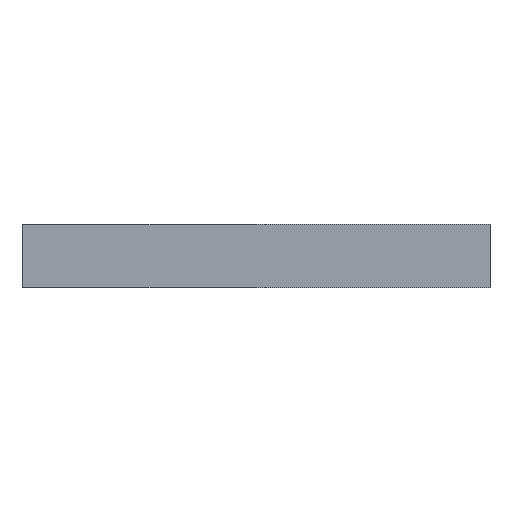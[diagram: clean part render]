
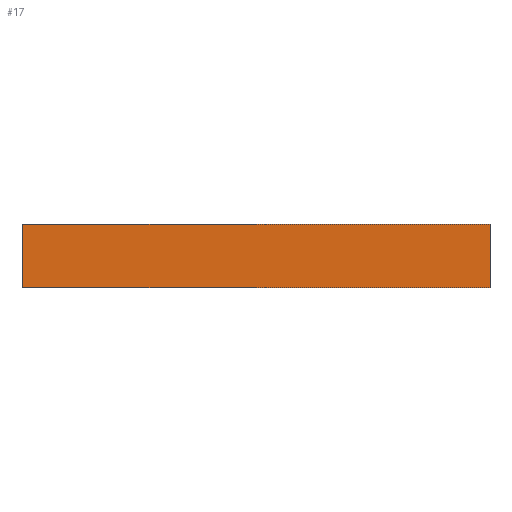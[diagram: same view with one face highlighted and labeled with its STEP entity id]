
A CAD part, front view. The second image highlights one B-rep face of the part: STEP entity #17.
In plain terms, the highlighted planar face has unit normal (0, -1, 0).
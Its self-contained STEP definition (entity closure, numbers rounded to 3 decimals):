
#17 = ADVANCED_FACE('',(#18),#32,.F.);
#18 = FACE_BOUND('',#19,.T.);
#19 = EDGE_LOOP('',(#20,#55,#83,#111));
#20 = ORIENTED_EDGE('',*,*,#21,.T.);
#21 = EDGE_CURVE('',#22,#24,#26,.T.);
#22 = VERTEX_POINT('',#23);
#23 = CARTESIAN_POINT('',(22.,-227.5,0.));
#24 = VERTEX_POINT('',#25);
#25 = CARTESIAN_POINT('',(22.,-227.5,6.));
#26 = SURFACE_CURVE('',#27,(#31,#43),.PCURVE_S1.);
#27 = LINE('',#28,#29);
#28 = CARTESIAN_POINT('',(22.,-227.5,0.));
#29 = VECTOR('',#30,1.);
#30 = DIRECTION('',(-0.,-0.,1.));
#31 = PCURVE('',#32,#37);
#32 = PLANE('',#33);
#33 = AXIS2_PLACEMENT_3D('',#34,#35,#36);
#34 = CARTESIAN_POINT('',(22.,-227.5,0.));
#35 = DIRECTION('',(-0.,1.,-0.));
#36 = DIRECTION('',(1.,0.,0.));
#37 = DEFINITIONAL_REPRESENTATION('',(#38),#42);
#38 = LINE('',#39,#40);
#39 = CARTESIAN_POINT('',(-0.,-0.));
#40 = VECTOR('',#41,1.);
#41 = DIRECTION('',(-0.,-1.));
#42 = ( GEOMETRIC_REPRESENTATION_CONTEXT(2) 
PARAMETRIC_REPRESENTATION_CONTEXT() REPRESENTATION_CONTEXT('2D SPACE',''
  ) );
#43 = PCURVE('',#44,#49);
#44 = PLANE('',#45);
#45 = AXIS2_PLACEMENT_3D('',#46,#47,#48);
#46 = CARTESIAN_POINT('',(22.,227.5,0.));
#47 = DIRECTION('',(-1.,-0.,-0.));
#48 = DIRECTION('',(0.,1.,0.));
#49 = DEFINITIONAL_REPRESENTATION('',(#50),#54);
#50 = LINE('',#51,#52);
#51 = CARTESIAN_POINT('',(-455.,0.));
#52 = VECTOR('',#53,1.);
#53 = DIRECTION('',(-0.,-1.));
#54 = ( GEOMETRIC_REPRESENTATION_CONTEXT(2) 
PARAMETRIC_REPRESENTATION_CONTEXT() REPRESENTATION_CONTEXT('2D SPACE',''
  ) );
#55 = ORIENTED_EDGE('',*,*,#56,.T.);
#56 = EDGE_CURVE('',#24,#57,#59,.T.);
#57 = VERTEX_POINT('',#58);
#58 = CARTESIAN_POINT('',(-22.,-227.5,6.));
#59 = SURFACE_CURVE('',#60,(#64,#71),.PCURVE_S1.);
#60 = LINE('',#61,#62);
#61 = CARTESIAN_POINT('',(22.,-227.5,6.));
#62 = VECTOR('',#63,1.);
#63 = DIRECTION('',(-1.,-0.,-0.));
#64 = PCURVE('',#32,#65);
#65 = DEFINITIONAL_REPRESENTATION('',(#66),#70);
#66 = LINE('',#67,#68);
#67 = CARTESIAN_POINT('',(-0.,-6.));
#68 = VECTOR('',#69,1.);
#69 = DIRECTION('',(-1.,0.));
#70 = ( GEOMETRIC_REPRESENTATION_CONTEXT(2) 
PARAMETRIC_REPRESENTATION_CONTEXT() REPRESENTATION_CONTEXT('2D SPACE',''
  ) );
#71 = PCURVE('',#72,#77);
#72 = PLANE('',#73);
#73 = AXIS2_PLACEMENT_3D('',#74,#75,#76);
#74 = CARTESIAN_POINT('',(0.,0.,6.));
#75 = DIRECTION('',(-0.,-0.,1.));
#76 = DIRECTION('',(1.,0.,0.));
#77 = DEFINITIONAL_REPRESENTATION('',(#78),#82);
#78 = LINE('',#79,#80);
#79 = CARTESIAN_POINT('',(22.,-227.5));
#80 = VECTOR('',#81,1.);
#81 = DIRECTION('',(-1.,0.));
#82 = ( GEOMETRIC_REPRESENTATION_CONTEXT(2) 
PARAMETRIC_REPRESENTATION_CONTEXT() REPRESENTATION_CONTEXT('2D SPACE',''
  ) );
#83 = ORIENTED_EDGE('',*,*,#84,.F.);
#84 = EDGE_CURVE('',#85,#57,#87,.T.);
#85 = VERTEX_POINT('',#86);
#86 = CARTESIAN_POINT('',(-22.,-227.5,0.));
#87 = SURFACE_CURVE('',#88,(#92,#99),.PCURVE_S1.);
#88 = LINE('',#89,#90);
#89 = CARTESIAN_POINT('',(-22.,-227.5,0.));
#90 = VECTOR('',#91,1.);
#91 = DIRECTION('',(-0.,-0.,1.));
#92 = PCURVE('',#32,#93);
#93 = DEFINITIONAL_REPRESENTATION('',(#94),#98);
#94 = LINE('',#95,#96);
#95 = CARTESIAN_POINT('',(-44.,0.));
#96 = VECTOR('',#97,1.);
#97 = DIRECTION('',(-0.,-1.));
#98 = ( GEOMETRIC_REPRESENTATION_CONTEXT(2) 
PARAMETRIC_REPRESENTATION_CONTEXT() REPRESENTATION_CONTEXT('2D SPACE',''
  ) );
#99 = PCURVE('',#100,#105);
#100 = PLANE('',#101);
#101 = AXIS2_PLACEMENT_3D('',#102,#103,#104);
#102 = CARTESIAN_POINT('',(-22.,-227.5,0.));
#103 = DIRECTION('',(1.,-0.,-0.));
#104 = DIRECTION('',(0.,-1.,0.));
#105 = DEFINITIONAL_REPRESENTATION('',(#106),#110);
#106 = LINE('',#107,#108);
#107 = CARTESIAN_POINT('',(-0.,-0.));
#108 = VECTOR('',#109,1.);
#109 = DIRECTION('',(-0.,-1.));
#110 = ( GEOMETRIC_REPRESENTATION_CONTEXT(2) 
PARAMETRIC_REPRESENTATION_CONTEXT() REPRESENTATION_CONTEXT('2D SPACE',''
  ) );
#111 = ORIENTED_EDGE('',*,*,#112,.F.);
#112 = EDGE_CURVE('',#22,#85,#113,.T.);
#113 = SURFACE_CURVE('',#114,(#118,#125),.PCURVE_S1.);
#114 = LINE('',#115,#116);
#115 = CARTESIAN_POINT('',(22.,-227.5,0.));
#116 = VECTOR('',#117,1.);
#117 = DIRECTION('',(-1.,-0.,-0.));
#118 = PCURVE('',#32,#119);
#119 = DEFINITIONAL_REPRESENTATION('',(#120),#124);
#120 = LINE('',#121,#122);
#121 = CARTESIAN_POINT('',(-0.,-0.));
#122 = VECTOR('',#123,1.);
#123 = DIRECTION('',(-1.,0.));
#124 = ( GEOMETRIC_REPRESENTATION_CONTEXT(2) 
PARAMETRIC_REPRESENTATION_CONTEXT() REPRESENTATION_CONTEXT('2D SPACE',''
  ) );
#125 = PCURVE('',#126,#131);
#126 = PLANE('',#127);
#127 = AXIS2_PLACEMENT_3D('',#128,#129,#130);
#128 = CARTESIAN_POINT('',(0.,0.,0.));
#129 = DIRECTION('',(-0.,-0.,1.));
#130 = DIRECTION('',(1.,0.,0.));
#131 = DEFINITIONAL_REPRESENTATION('',(#132),#136);
#132 = LINE('',#133,#134);
#133 = CARTESIAN_POINT('',(22.,-227.5));
#134 = VECTOR('',#135,1.);
#135 = DIRECTION('',(-1.,0.));
#136 = ( GEOMETRIC_REPRESENTATION_CONTEXT(2) 
PARAMETRIC_REPRESENTATION_CONTEXT() REPRESENTATION_CONTEXT('2D SPACE',''
  ) );
